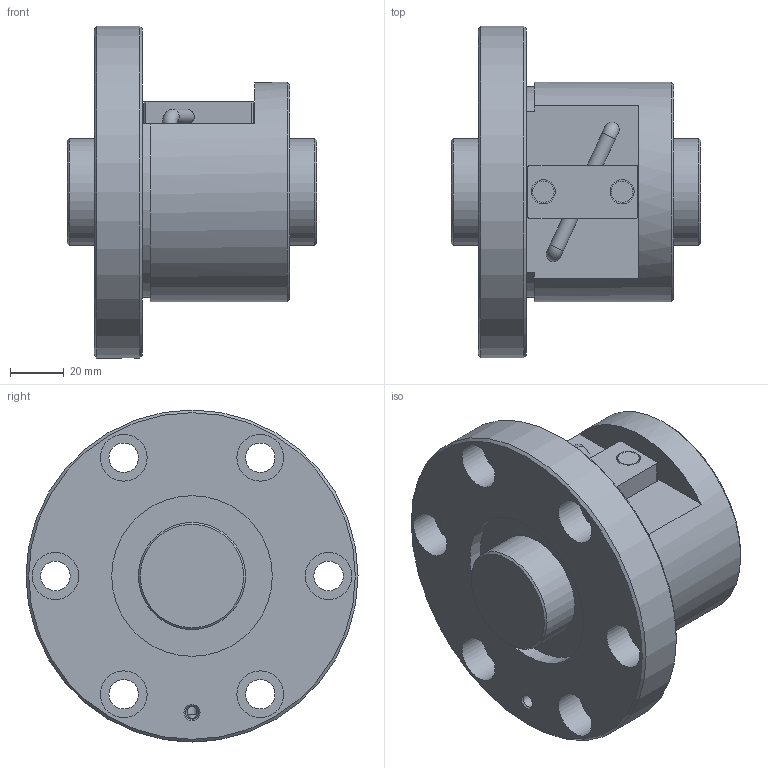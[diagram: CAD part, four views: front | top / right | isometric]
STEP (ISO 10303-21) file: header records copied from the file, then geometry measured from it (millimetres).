
FILE_DESCRIPTION(/* description */ ('STEP AP203'),/* implementation_level */ '2;1');
FILE_NAME(/* name */ 'BNF4010V-2.5RRG1+93LC0_000_rev',/* time_stamp */ '2024-08-06T08:40:43+02:00',/* author */ ('License CC BY-ND 4.0'),/* organization */ ('CADENAS'),/* preprocessor_version */ 'ST-DEVELOPER v19.3',/* originating_system */ 'PARTsolutions',/* authorisation */ ' ');
FILE_SCHEMA (('CONFIG_CONTROL_DESIGN'));
Length unit declared in the file: millimetre
Products named in the file (3): BNF4010V-2.5RRG1+93LC0_000_rev; BNF 4010-2.5RR000 Shaft; BNF 4010-2.5RR Nut
Assembly tree (2 placements, depth 2):
  BNF4010V-2.5RRG1+93LC0_000_rev
    BNF 4010-2.5RR000 Shaft
    BNF 4010-2.5RR Nut
Bounding box: 93 x 124 x 124 mm (x, y, z)
Volume: 472004 mm3; surface area: 74120 mm2
Topology: 2 solids, 2 shells, 69 faces, 148 edges, 96 vertices
Faces by surface type: cylinder 33, plane 27, cone 7, torus 2
Full cylindrical faces by diameter (mm): 4.5 x2, 4.917 x1, 5.465 x2, 8 x2, 9 x2, 11 x6, 17.5 x6, 40 x2, 60 x2, 82 x1, 124 x1
Entity records: 1755 total; most frequent: DIRECTION 312, CARTESIAN_POINT 296, ORIENTED_EDGE 200, AXIS2_PLACEMENT_3D 144, EDGE_LOOP 140, FACE_BOUND 140, EDGE_CURVE 100, VERTEX_POINT 86
